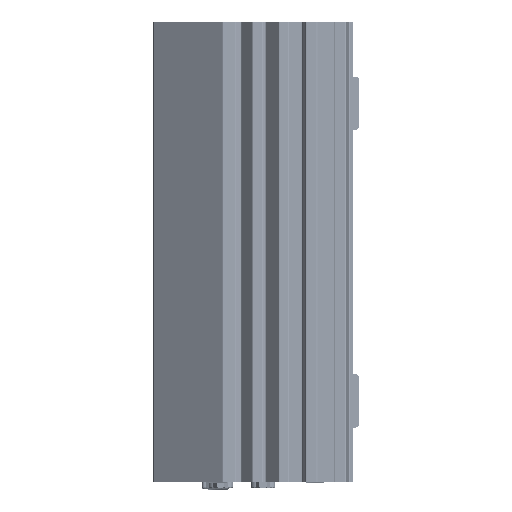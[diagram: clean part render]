
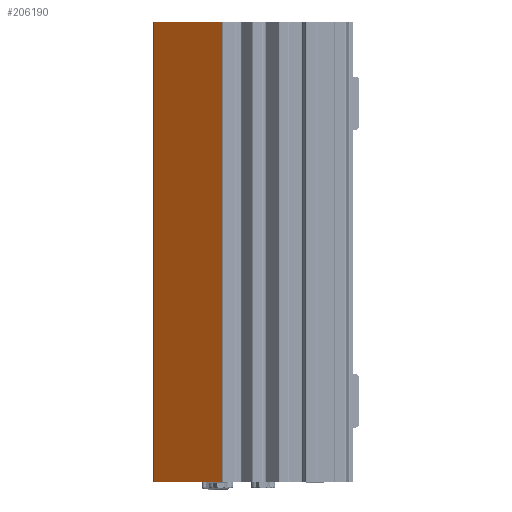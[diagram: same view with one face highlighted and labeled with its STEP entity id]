
A CAD part, left-side view. The second image highlights one B-rep face of the part: STEP entity #206190.
In plain terms, the highlighted planar face has unit normal (-0.819, 0.574, 0).
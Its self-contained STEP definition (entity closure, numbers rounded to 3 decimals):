
#9923 = VECTOR ( 'NONE', #401807, 1000. ) ;
#10356 = DIRECTION ( 'NONE',  ( 0., 0., 1. ) ) ;
#10608 = CARTESIAN_POINT ( 'NONE',  ( -102.947, 74.772, 86.5 ) ) ;
#12064 = DIRECTION ( 'NONE',  ( -0.574, -0.819, 0. ) ) ;
#13746 = EDGE_CURVE ( 'NONE', #488379, #295114, #191964, .T. ) ;
#50303 = CARTESIAN_POINT ( 'NONE',  ( -102.947, 74.772, 86.5 ) ) ;
#59999 = LINE ( 'NONE', #183370, #392933 ) ;
#90101 = EDGE_CURVE ( 'NONE', #295114, #155316, #59999, .T. ) ;
#110718 = CARTESIAN_POINT ( 'NONE',  ( -120.999, 48.992, -86.5 ) ) ;
#113373 = PLANE ( 'NONE',  #209740 ) ;
#125516 = LINE ( 'NONE', #10608, #9923 ) ;
#155316 = VERTEX_POINT ( 'NONE', #397696 ) ;
#156763 = EDGE_CURVE ( 'NONE', #509426, #155316, #184460, .T. ) ;
#157021 = DIRECTION ( 'NONE',  ( 0.574, 0.819, 0. ) ) ;
#181340 = DIRECTION ( 'NONE',  ( -0.574, -0.819, 0. ) ) ;
#183370 = CARTESIAN_POINT ( 'NONE',  ( -120.999, 48.992, 86.5 ) ) ;
#184460 = LINE ( 'NONE', #316007, #286316 ) ;
#189584 = EDGE_CURVE ( 'NONE', #509426, #488379, #125516, .T. ) ;
#191964 = LINE ( 'NONE', #266806, #524637 ) ;
#206190 = ADVANCED_FACE ( 'NONE', ( #236192 ), #113373, .F. ) ;
#209740 = AXIS2_PLACEMENT_3D ( 'NONE', #329844, #417112, #157021 ) ;
#216357 = ORIENTED_EDGE ( 'NONE', *, *, #13746, .T. ) ;
#223193 = ORIENTED_EDGE ( 'NONE', *, *, #90101, .T. ) ;
#229466 = ORIENTED_EDGE ( 'NONE', *, *, #189584, .T. ) ;
#234824 = EDGE_LOOP ( 'NONE', ( #216357, #223193, #236311, #229466 ) ) ;
#236192 = FACE_OUTER_BOUND ( 'NONE', #234824, .T. ) ;
#236311 = ORIENTED_EDGE ( 'NONE', *, *, #156763, .F. ) ;
#266806 = CARTESIAN_POINT ( 'NONE',  ( -122.022, 47.53, -86.5 ) ) ;
#286316 = VECTOR ( 'NONE', #12064, 1000. ) ;
#295114 = VERTEX_POINT ( 'NONE', #110718 ) ;
#316007 = CARTESIAN_POINT ( 'NONE',  ( -122.022, 47.53, 86.5 ) ) ;
#329844 = CARTESIAN_POINT ( 'NONE',  ( -122.022, 47.53, 86.5 ) ) ;
#392933 = VECTOR ( 'NONE', #10356, 1000. ) ;
#397696 = CARTESIAN_POINT ( 'NONE',  ( -120.999, 48.992, 86.5 ) ) ;
#401807 = DIRECTION ( 'NONE',  ( 0., 0., -1. ) ) ;
#417112 = DIRECTION ( 'NONE',  ( 0.819, -0.574, 0. ) ) ;
#463580 = CARTESIAN_POINT ( 'NONE',  ( -102.947, 74.772, -86.5 ) ) ;
#488379 = VERTEX_POINT ( 'NONE', #463580 ) ;
#509426 = VERTEX_POINT ( 'NONE', #50303 ) ;
#524637 = VECTOR ( 'NONE', #181340, 1000. ) ;
